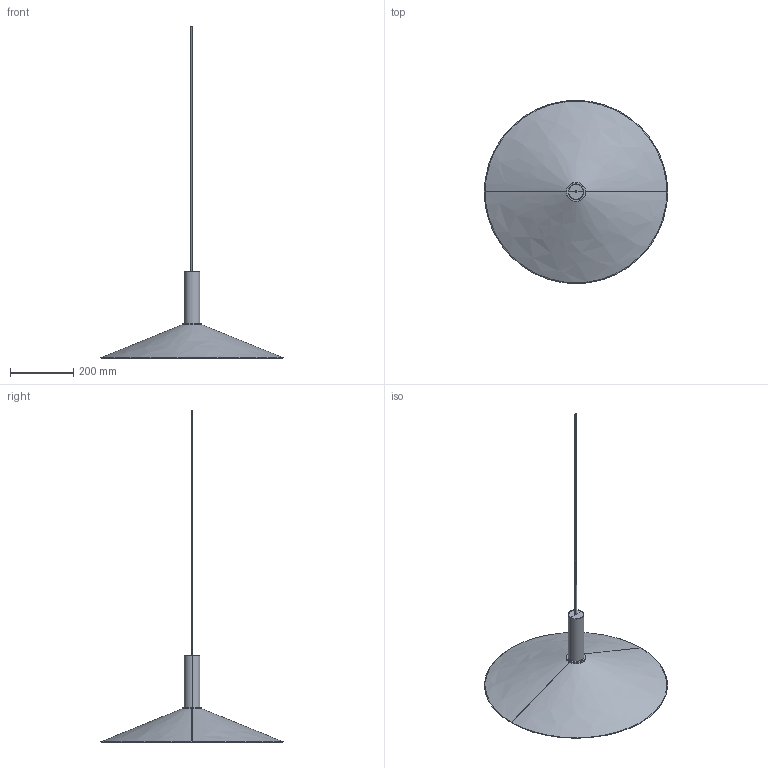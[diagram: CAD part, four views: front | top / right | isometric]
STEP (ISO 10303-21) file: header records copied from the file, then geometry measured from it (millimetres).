
FILE_DESCRIPTION(/* description */ (''),/* implementation_level */ '2;1');
FILE_NAME(/* name */ 'CBGBWS~Q',/* time_stamp */ '2019-03-20T13:45:44+01:00',/* author */ (''),/* organization */ (''),/* preprocessor_version */ 'ST-DEVELOPER v16.5',/* originating_system */ '',/* authorisation */ '');
FILE_SCHEMA (('AUTOMOTIVE_DESIGN'));
Length unit declared in the file: millimetre
Products named in the file (1): Document
Bounding box: 577.58 x 577.56 x 1045.84 mm (x, y, z)
Volume: 357404.7 mm3; surface area: 637341.4 mm2
Topology: 4 solids, 4 shells, 38 faces, 74 edges, 40 vertices
Faces by surface type: bspline 34, plane 4
Entity records: 1106 total; most frequent: CARTESIAN_POINT 654, ORIENTED_EDGE 148, EDGE_CURVE 74, EDGE_LOOP 40, VERTEX_POINT 40, ADVANCED_FACE 38, FACE_OUTER_BOUND 38, B_SPLINE_CURVE_WITH_KNOTS 26
